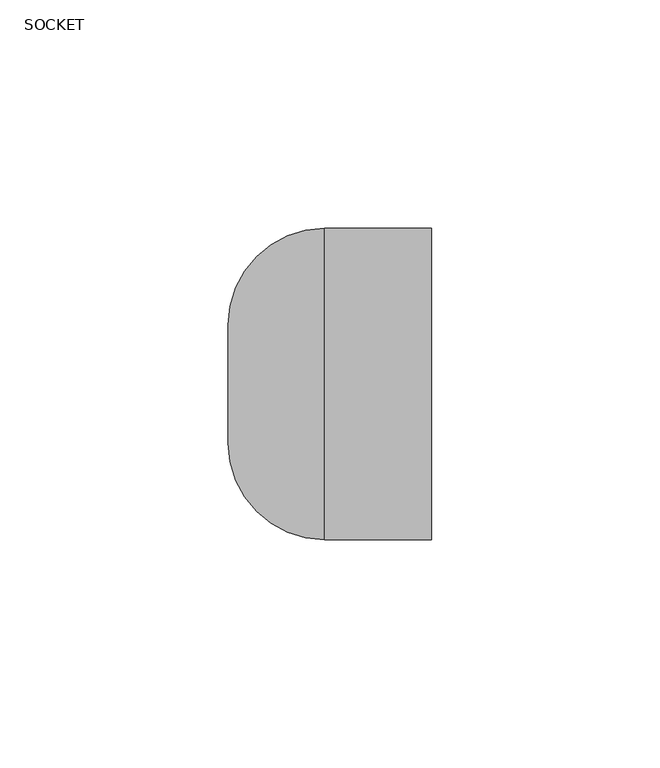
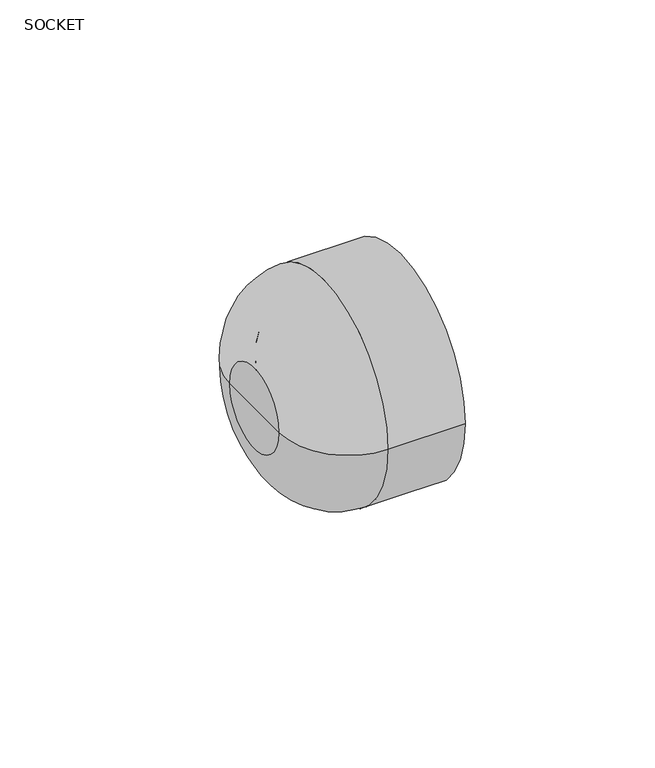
"""IFC4 building model written with IfcOpenShell, lengths in millimetres: pipe fitting geometry, Aquatherm - End Cap Socket : SOCKET."""

import ifcopenshell
import ifcopenshell.guid

model = None  # the IFC model being written
_history = None  # IfcOwnerHistory: only IFC2X3 demands one
_inside = {}  # id of a spatial element -> (the spatial element, [elements in it])
_under = {}  # id of a project, library or spatial element -> (it, [spatial elements below it])
_declared = {}  # id of a project -> (the project, [libraries it declares])
_typed = {}  # id of a type object -> (the type object, [elements of that type])
_made_of = {}  # id of a material, layer set ... -> (it, [elements and type objects made of it])


def new_model(schema):
    """Start an empty IFC model of exactly this schema.

    Asked for "IFC4X3", IfcOpenShell would pick the latest addendum, in which some entities
    have other attributes; the version numbers below select the first issue.
    IFC2X3 requires an IfcOwnerHistory on every rooted entity: one is made here for all.
    """
    global model, _history
    if schema == "IFC4X3":
        model = ifcopenshell.file(schema_version=(4, 3, 0, 0))
    else:
        model = ifcopenshell.file(schema=schema)
    _inside.clear()
    _under.clear()
    _declared.clear()
    _typed.clear()
    _made_of.clear()
    _history = None
    if model.schema == "IFC2X3":
        org = make("IfcOrganization", Name="unknown")
        user = make(
            "IfcPersonAndOrganization",
            ThePerson=make("IfcPerson", FamilyName="unknown"),
            TheOrganization=org,
        )
        app = make(
            "IfcApplication",
            ApplicationDeveloper=org,
            Version="unknown",
            ApplicationFullName="unknown",
            ApplicationIdentifier="unknown",
        )
        _history = make(
            "IfcOwnerHistory",
            OwningUser=user,
            OwningApplication=app,
            ChangeAction="ADDED",
            CreationDate=0,
        )
    return model


def make(cls, **values):
    """One entity of the class cls with the attributes given. An attribute that is None is left unset."""
    return model.create_entity(
        cls, **{name: value for name, value in values.items() if value is not None}
    )


def rooted(cls, **values):
    """An entity with a GlobalId (a new one), such as an element, a storey or a relation."""
    return make(cls, GlobalId=ifcopenshell.guid.new(), OwnerHistory=_history, **values)


def si_unit(unit_type, name, prefix=None):
    """IfcSIUnit, for example si_unit("LENGTHUNIT", "METRE", prefix="MILLI")."""
    return make("IfcSIUnit", UnitType=unit_type, Prefix=prefix, Name=name)


def assignment(units):
    """IfcUnitAssignment: the units of a project."""
    return None if units is None else make("IfcUnitAssignment", Units=units)


def point(xyz):
    """IfcCartesianPoint."""
    return None if xyz is None else make("IfcCartesianPoint", Coordinates=xyz)


def direction(xyz):
    """IfcDirection."""
    return None if xyz is None else make("IfcDirection", DirectionRatios=xyz)


def frame(location, z_axis=None, x_axis=None):
    """IfcAxis2Placement3D, a coordinate frame: its origin and axes. An axis left out is left unset."""
    return make(
        "IfcAxis2Placement3D",
        Location=point(location),
        Axis=direction(z_axis),
        RefDirection=direction(x_axis),
    )


def origin():
    """The frame at (0, 0, 0) with its axes left unset."""
    return frame((0.0, 0.0, 0.0))


def place(relative_to, where):
    """IfcLocalPlacement: puts the frame where relative to a parent placement (None: the world)."""
    return make(
        "IfcLocalPlacement", PlacementRelTo=relative_to, RelativePlacement=where
    )


def context(
    kind, dimensions, precision=None, world=None, true_north=None, identifier=None
):
    """IfcGeometricRepresentationContext, for example the 3D "Model" context."""
    return make(
        "IfcGeometricRepresentationContext",
        ContextIdentifier=identifier,
        ContextType=kind,
        CoordinateSpaceDimension=dimensions,
        Precision=precision,
        WorldCoordinateSystem=world,
        TrueNorth=true_north,
    )


def project(units=None, contexts=None):
    """IfcProject with its units and contexts."""
    return rooted(
        "IfcProject",
        Name="project",
        RepresentationContexts=contexts,
        UnitsInContext=assignment(units),
    )


def spatial(cls, under=None, at=None, **own):
    """A site, building, storey or space (cls), placed at a placement, below another one or the project."""
    s = rooted(cls, ObjectPlacement=at, **own)
    if under is not None:
        _under.setdefault(under.id(), (under, []))[1].append(s)
    return s


def polyline(points):
    """IfcPolyline through the points."""
    return make("IfcPolyline", Points=[point(p) for p in points])


def circle_curve(where, radius):
    """IfcCircle in the frame where."""
    return make("IfcCircle", Position=where, Radius=radius)


def ellipse_curve(where, semi_axis1, semi_axis2):
    """IfcEllipse in the frame where."""
    return make(
        "IfcEllipse", Position=where, SemiAxis1=semi_axis1, SemiAxis2=semi_axis2
    )


def trimmed(basis, trim1, trim2, sense, master):
    """IfcTrimmedCurve: the piece of a basis curve between two trims."""
    return make(
        "IfcTrimmedCurve",
        BasisCurve=basis,
        Trim1=trim1,
        Trim2=trim2,
        SenseAgreement=sense,
        MasterRepresentation=master,
    )


def shape(context_of_items, identifier, shape_type, items):
    """IfcShapeRepresentation: the items that make up one representation, for example the "Body"."""
    return make(
        "IfcShapeRepresentation",
        ContextOfItems=context_of_items,
        RepresentationIdentifier=identifier,
        RepresentationType=shape_type,
        Items=items,
    )


def source(mapping_origin, context_of_items, identifier, shape_type, items):
    """IfcRepresentationMap: a shape defined once, which mapped items show again and again."""
    return make(
        "IfcRepresentationMap",
        MappingOrigin=mapping_origin,
        MappedRepresentation=shape(context_of_items, identifier, shape_type, items),
    )


def transform(
    local_origin,
    x_axis=None,
    y_axis=None,
    z_axis=None,
    scale=None,
    scale2=None,
    scale3=None,
    uniform=True,
):
    """IfcCartesianTransformationOperator3D, or its non-uniform kind. x_axis, y_axis, z_axis: its Axis1, 2, 3."""
    if uniform:
        return make(
            "IfcCartesianTransformationOperator3D",
            Axis1=direction(x_axis),
            Axis2=direction(y_axis),
            LocalOrigin=point(local_origin),
            Scale=scale,
            Axis3=direction(z_axis),
        )
    return make(
        "IfcCartesianTransformationOperator3DnonUniform",
        Axis1=direction(x_axis),
        Axis2=direction(y_axis),
        LocalOrigin=point(local_origin),
        Scale=scale,
        Axis3=direction(z_axis),
        Scale2=scale2,
        Scale3=scale3,
    )


def mapped(mapping_source, mapping_target):
    """IfcMappedItem: shows the shape of a source again, moved by a transform."""
    return make(
        "IfcMappedItem", MappingSource=mapping_source, MappingTarget=mapping_target
    )


def made_of(thing, what):
    """Note that an element or type object is made of a material, layer set ...; save() writes the relation."""
    if what is not None:
        _made_of.setdefault(what.id(), (what, []))[1].append(thing)
    return thing


def element(
    cls,
    number,
    at=None,
    inside=None,
    cuts=None,
    type_object=None,
    material=None,
    context=None,
    identifier="Body",
    shape_type=None,
    held_by="IfcProductDefinitionShape",
    body=None,
    shapes=None,
    **own,
):
    """One element of the class cls, such as IfcWall. Its Tag is "e" and its number.

    at: its placement. inside: the storey or other place that contains it. cuts: it is an
    opening in that element (IfcRelVoidsElement). A single representation is given by context,
    identifier, shape_type and body (its items); several are given by shapes. held_by: the class
    of the entity that holds the representations. save() writes the other relations.
    """
    e = rooted(cls, Tag="e%d" % number, ObjectPlacement=at, **own)
    if body is not None:
        shapes = [shape(context, identifier, shape_type, body)]
    if shapes is not None:
        e.Representation = make(held_by, Representations=shapes)
    if inside is not None:
        _inside.setdefault(inside.id(), (inside, []))[1].append(e)
    if cuts is not None:
        rooted(
            "IfcRelVoidsElement", RelatingBuildingElement=cuts, RelatedOpeningElement=e
        )
    if type_object is not None:
        _typed.setdefault(type_object.id(), (type_object, []))[1].append(e)
    return made_of(e, material)


def aggregate(whole, parts):
    """IfcRelAggregates: a whole, such as a stair, and the parts it consists of."""
    return rooted("IfcRelAggregates", RelatingObject=whole, RelatedObjects=parts)


def save(model, path):
    """Write the relations noted so far, then the file.

    IfcRelAggregates (storeys below a building ...), IfcRelContainedInSpatialStructure (elements
    in a storey), IfcRelDefinesByType, IfcRelAssociatesMaterial and IfcRelDeclares: one each for
    every whole, place, type object, material and project.
    """
    for whole, parts in _under.values():
        aggregate(whole, parts)
    for where, things in _inside.values():
        rooted(
            "IfcRelContainedInSpatialStructure",
            RelatedElements=things,
            RelatingStructure=where,
        )
    for kind, things in _typed.values():
        rooted("IfcRelDefinesByType", RelatedObjects=things, RelatingType=kind)
    for what, things in _made_of.values():
        rooted("IfcRelAssociatesMaterial", RelatedObjects=things, RelatingMaterial=what)
    for by, libraries in _declared.values():
        rooted("IfcRelDeclares", RelatingContext=by, RelatedDefinitions=libraries)
    model.write(path)


def plane_surface(at):
    """IfcPlane: the flat surface through the origin of the frame at, square to its z axis."""
    return make("IfcPlane", Position=at)


def cylinder_surface(at, radius):
    """IfcCylindricalSurface: all points at the distance radius from the z axis of the frame at."""
    return make("IfcCylindricalSurface", Position=at, Radius=radius)


def revolved_surface(curve, axis_point, axis_direction):
    """IfcSurfaceOfRevolution: the curve turned about the line through axis_point along axis_direction."""
    return make(
        "IfcSurfaceOfRevolution",
        SweptCurve=make("IfcArbitraryOpenProfileDef", ProfileType="CURVE", Curve=curve),
        AxisPosition=make("IfcAxis1Placement", Location=point(axis_point), Axis=direction(axis_direction)),
    )


def advanced_brep(points, edges, surfaces, faces):
    """IfcAdvancedBrep: a solid bounded by faces that lie on surfaces and meet in shared edges.

    An edge is (start, end): straight between two places in points (the first is 0);
    or (start, end, curve); or (start, end, curve, False) where it runs against its curve.
    A face is (place in surfaces, loops), or (place, loops, False) where it looks against
    its surface's normal. A loop lists edges by number (the first is 1), with a minus sign
    where the edge is run from its end to its start. The first loop is the outer one.
    """
    corners = [point(p) for p in points]
    vertices = [make("IfcVertexPoint", VertexGeometry=c) for c in corners]
    made = []
    for start, end, *more in edges:
        made.append(
            make(
                "IfcEdgeCurve",
                EdgeStart=vertices[start],
                EdgeEnd=vertices[end],
                EdgeGeometry=more[0] if more else make("IfcPolyline", Points=[corners[start], corners[end]]),
                SameSense=more[1] if len(more) > 1 else True,
            )
        )
    hull = []
    for where, loops, *sense in faces:
        bounds = []
        for j, loop in enumerate(loops):
            ring = [make("IfcOrientedEdge", EdgeElement=made[abs(k) - 1], Orientation=k > 0) for k in loop]
            bounds.append(
                make(
                    "IfcFaceOuterBound" if j == 0 else "IfcFaceBound",
                    Bound=make("IfcEdgeLoop", EdgeList=ring),
                    Orientation=True,
                )
            )
        hull.append(make("IfcAdvancedFace", Bounds=bounds, FaceSurface=surfaces[where], SameSense=sense[0] if sense else True))
    return make("IfcAdvancedBrep", Outer=make("IfcClosedShell", CfsFaces=hull))


def socket_850938ae(model_context):
    return source(origin(), model_context, "Body", "AdvancedBrep", [
        advanced_brep(
        [(-44.45, 0.0, 0.0), (-44.45, 12.954, 0.0), (-44.45, -12.954, 0.0), (-30.2238664, -25.019, 0.0), (-30.2238664, 25.019, 0.0), (-30.2238664, 21.9180664, 0.0), (-30.2238664, -21.9180664, 0.0), (0.0, -25.019, 0.0), (0.0, 25.019, 0.0), (0.0, -34.036, 0.0), (0.0, 34.036, 0.0), (-23.368, -34.036, 0.0), (-23.368, 34.036, 0.0), (-32.3320664, -19.8098664, 0.0), (-32.3320664, 19.8098664, 0.0), (-32.3320664, 0.0, 0.0)],
        [
            (0, 1),
            (1, 2, circle_curve(frame((-44.45, 0.0, 0.0), z_axis=(-1.0, 0.0, 0.0), x_axis=(0.0, 1.0, 0.0)), 12.954)),
            (2, 0),
            (2, 1, circle_curve(frame((-44.45, 0.0, 0.0), z_axis=(-1.0, 0.0, 0.0), x_axis=(0.0, 1.0, 0.0)), 12.954)),
            (3, 4, circle_curve(frame((-30.2238664, 0.0, 0.0), z_axis=(1.0, 0.0, 0.0), x_axis=(0.0, 1.0, 0.0)), 25.019)),
            (4, 5),
            (5, 6, circle_curve(frame((-30.2238664, 0.0, 0.0), z_axis=(-1.0, 0.0, 0.0), x_axis=(0.0, 1.0, 0.0)), 21.9180664)),
            (6, 3),
            (4, 3, circle_curve(frame((-30.2238664, 0.0, 0.0), z_axis=(1.0, 0.0, 0.0), x_axis=(0.0, 1.0, 0.0)), 25.019)),
            (6, 5, circle_curve(frame((-30.2238664, 0.0, 0.0), z_axis=(-1.0, 0.0, 0.0), x_axis=(0.0, 1.0, 0.0)), 21.9180664)),
            (7, 8, circle_curve(frame((0.0, 0.0, 0.0), z_axis=(1.0, 0.0, 0.0), x_axis=(0.0, 1.0, 0.0)), 25.019)),
            (8, 4),
            (3, 7),
            (8, 7, circle_curve(frame((0.0, 0.0, 0.0), z_axis=(1.0, 0.0, 0.0), x_axis=(0.0, 1.0, 0.0)), 25.019)),
            (9, 10, circle_curve(frame((0.0, 0.0, 0.0), z_axis=(1.0, 0.0, 0.0), x_axis=(0.0, 1.0, 0.0)), 34.036)),
            (10, 8),
            (7, 9),
            (10, 9, circle_curve(frame((0.0, 0.0, 0.0), z_axis=(1.0, 0.0, 0.0), x_axis=(0.0, 1.0, 0.0)), 34.036)),
            (11, 12, circle_curve(frame((-23.368, 0.0, 0.0), z_axis=(1.0, 0.0, 0.0), x_axis=(0.0, 1.0, 0.0)), 34.036)),
            (12, 10),
            (9, 11),
            (12, 11, circle_curve(frame((-23.368, 0.0, 0.0), z_axis=(1.0, 0.0, 0.0), x_axis=(0.0, 1.0, 0.0)), 34.036)),
            (1, 12, circle_curve(frame((-23.368, 12.954, 0.0), z_axis=(0.0, 0.0, -1.0), x_axis=(1.0, 0.0, 0.0)), 21.082)),
            (11, 2, circle_curve(frame((-23.368, -12.954, 0.0), z_axis=(0.0, 0.0, -1.0), x_axis=(1.0, 0.0, 0.0)), 21.082)),
            (13, 14, circle_curve(frame((-32.3320664, 0.0, 0.0), z_axis=(1.0, 0.0, 0.0), x_axis=(0.0, 1.0, 0.0)), 19.8098664)),
            (14, 15),
            (15, 13),
            (14, 13, circle_curve(frame((-32.3320664, 0.0, 0.0), z_axis=(1.0, 0.0, 0.0), x_axis=(0.0, 1.0, 0.0)), 19.8098664)),
            (5, 14, circle_curve(frame((-30.2238664, 19.8098664, 0.0), z_axis=(0.0, 0.0, 1.0), x_axis=(1.0, 0.0, 0.0)), 2.1082)),
            (13, 6, circle_curve(frame((-30.2238664, -19.8098664, 0.0), z_axis=(0.0, 0.0, 1.0), x_axis=(1.0, 0.0, 0.0)), 2.1082)),
        ],
        [
            plane_surface(frame((-44.45, 0.0, 0.0), z_axis=(-1.0, 0.0, 0.0), x_axis=(0.0, 1.0, 0.0))),
            plane_surface(frame((-30.2238664, 0.0, 0.0), z_axis=(1.0, 0.0, 0.0), x_axis=(0.0, 1.0, 0.0))),
            revolved_surface(polyline([(-30.2238664, 25.019, 0.0), (0.0, 25.019, 0.0)]), (-32.3320664, 0.0, 0.0), (-1.0, 0.0, 0.0)),
            plane_surface(frame((0.0, 0.0, 0.0), z_axis=(1.0, 0.0, 0.0), x_axis=(0.0, 1.0, 0.0))),
            cylinder_surface(frame((-32.3320664, 0.0, 0.0), z_axis=(-1.0, 0.0, 0.0), x_axis=(0.0, 1.0, 0.0)), 34.036),
            revolved_surface(trimmed(ellipse_curve(frame((-23.368, 12.954, 0.0), z_axis=(0.0, 0.0, 1.0), x_axis=(1.0, 0.0, 0.0)), 21.082, 21.082), [point((-23.368, 34.036, 0.0))], [point((-44.45, 12.954, 0.0))], True, "CARTESIAN"), (-32.3320664, 0.0, 0.0), (-1.0, 0.0, 0.0)),
            plane_surface(frame((-32.3320664, 0.0, 0.0), z_axis=(1.0, 0.0, 0.0), x_axis=(0.0, 1.0, 0.0))),
            revolved_surface(trimmed(ellipse_curve(frame((-30.2238664, 19.8098664, 0.0), z_axis=(0.0, 0.0, -1.0), x_axis=(1.0, 0.0, 0.0)), 2.1082, 2.1082), [point((-32.3320664, 19.8098664, 0.0))], [point((-30.2238664, 21.9180664, 0.0))], True, "CARTESIAN"), (-32.3320664, 0.0, 0.0), (-1.0, 0.0, 0.0)),
        ],
        [
            (0, [[1, 2, 3]]),
            (0, [[-3, 4, -1]]),
            (1, [[5, 6, 7, 8]]),
            (1, [[9, -8, 10, -6]]),
            (2, [[11, 12, -5, 13]]),
            (2, [[14, -13, -9, -12]]),
            (3, [[15, 16, -11, 17]]),
            (3, [[18, -17, -14, -16]]),
            (4, [[19, 20, -15, 21]]),
            (4, [[22, -21, -18, -20]]),
            (5, [[-2, 23, -19, 24]]),
            (5, [[-4, -24, -22, -23]]),
            (6, [[25, 26, 27]]),
            (6, [[28, -27, -26]]),
            (7, [[-7, 29, -25, 30]]),
            (7, [[-10, -30, -28, -29]]),
        ],
    ),
    ])


if __name__ == "__main__":
    model = new_model("IFC4")
    model_context = context("Model", 3, world=origin())
    ifc_project = project(units=[si_unit("LENGTHUNIT", "METRE", prefix="MILLI")], contexts=[model_context])
    site = spatial("IfcSite", under=ifc_project)
    building = spatial("IfcBuilding", under=site)
    placement = place(None, origin())
    ifc_socket_shape = socket_850938ae(model_context)
    element("IfcPipeFitting", 1, ObjectType="Aquatherm - End Cap Socket : SOCKET", at=placement, inside=building, context=model_context, shape_type="MappedRepresentation", body=[
        mapped(ifc_socket_shape, transform((0.0, 0.0, 0.0), x_axis=(1.0, 0.0, 0.0), y_axis=(0.0, 1.0, 0.0), z_axis=(0.0, 0.0, 1.0))),
    ])
    save(model, "model.ifc")
